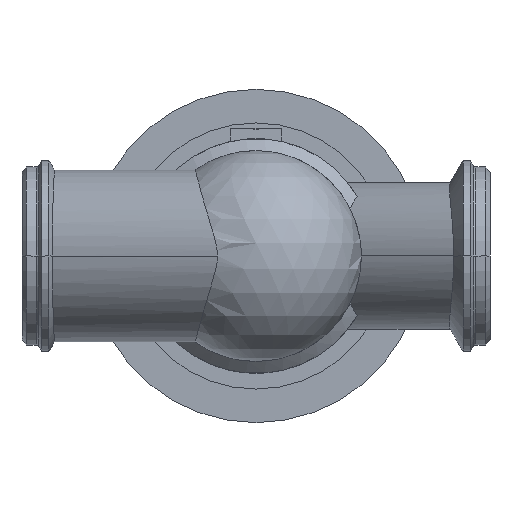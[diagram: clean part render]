
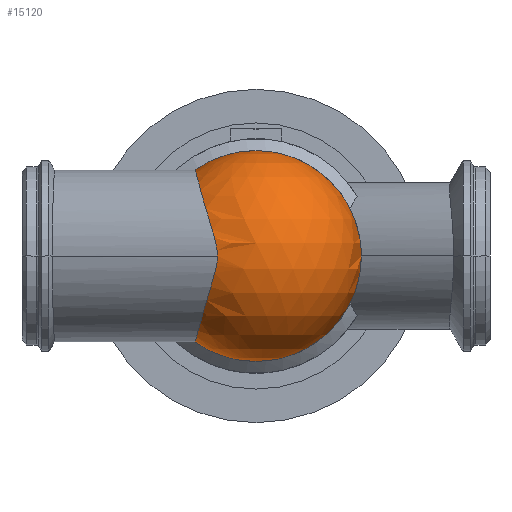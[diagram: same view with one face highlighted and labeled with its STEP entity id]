
A CAD part, front view. The second image highlights one B-rep face of the part: STEP entity #15120.
In plain terms, the highlighted spherical face has radius 164.2 mm.
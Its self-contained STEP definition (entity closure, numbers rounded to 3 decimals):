
#100=CARTESIAN_POINT('',(304.898,-218.775,
0.));
#110=VERTEX_POINT('',#100);
#1780=CARTESIAN_POINT('',(269.918,-65.97,
133.869));
#1790=VERTEX_POINT('',#1780);
#1820=CARTESIAN_POINT('',(269.918,-65.97,
-133.869));
#1830=CARTESIAN_POINT('',(269.932,-66.681,
-133.879));
#1840=CARTESIAN_POINT('',(269.947,-67.389,
-133.884));
#1850=CARTESIAN_POINT('',(270.066,-72.728,
-133.884));
#1860=CARTESIAN_POINT('',(270.205,-77.438,
-133.667));
#1870=CARTESIAN_POINT('',(270.566,-86.924,
-132.768));
#1880=CARTESIAN_POINT('',(270.787,-91.7,
-132.088));
#1890=CARTESIAN_POINT('',(271.325,-101.23,
-130.257));
#1900=CARTESIAN_POINT('',(271.641,-105.984,
-129.107));
#1910=CARTESIAN_POINT('',(272.374,-115.388,
-126.349));
#1920=CARTESIAN_POINT('',(272.792,-120.038,
-124.741));
#1930=CARTESIAN_POINT('',(273.734,-129.153,
-121.096));
#1940=CARTESIAN_POINT('',(274.258,-133.623,
-119.058));
#1950=CARTESIAN_POINT('',(275.415,-142.314,
-114.595));
#1960=CARTESIAN_POINT('',(276.048,-146.535,
-112.17));
#1970=CARTESIAN_POINT('',(277.416,-154.666,
-106.993));
#1980=CARTESIAN_POINT('',(278.152,-158.576,
-104.24));
#1990=CARTESIAN_POINT('',(279.715,-166.032,
-98.481));
#2000=CARTESIAN_POINT('',(280.543,-169.578,
-95.475));
#2010=CARTESIAN_POINT('',(282.233,-176.118,
-89.434));
#2020=CARTESIAN_POINT('',(283.121,-179.24,
-86.303));
#2030=CARTESIAN_POINT('',(285.015,-185.252,
-79.729));
#2040=CARTESIAN_POINT('',(286.022,-188.142,
-76.285));
#2050=CARTESIAN_POINT('',(288.138,-193.621,
-69.141));
#2060=CARTESIAN_POINT('',(289.248,-196.21,
-65.44));
#2070=CARTESIAN_POINT('',(291.547,-201.034,
-57.841));
#2080=CARTESIAN_POINT('',(292.735,-203.268,
-53.944));
#2090=CARTESIAN_POINT('',(294.541,-206.321,
-48.));
#2100=CARTESIAN_POINT('',(295.146,-207.289,
-46.003));
#2110=CARTESIAN_POINT('',(296.356,-209.121,
-41.984));
#2120=CARTESIAN_POINT('',(296.959,-209.985,
-39.961));
#2130=CARTESIAN_POINT('',(298.154,-211.606,
-35.894));
#2140=CARTESIAN_POINT('',(298.745,-212.364,
-33.85));
#2150=CARTESIAN_POINT('',(299.897,-213.766,
-29.741));
#2160=CARTESIAN_POINT('',(300.458,-214.412,
-27.677));
#2170=CARTESIAN_POINT('',(301.528,-215.584,
-23.527));
#2180=CARTESIAN_POINT('',(302.037,-216.111,
-21.442));
#2190=CARTESIAN_POINT('',(302.967,-217.036,
-17.246));
#2200=CARTESIAN_POINT('',(303.389,-217.434,
-15.136));
#2210=CARTESIAN_POINT('',(304.102,-218.086,
-10.881));
#2220=CARTESIAN_POINT('',(304.392,-218.34,
-8.736));
#2230=CARTESIAN_POINT('',(304.69,-218.599,
-5.486));
#2240=CARTESIAN_POINT('',(304.767,-218.664,
-4.398));
#2250=CARTESIAN_POINT('',(304.871,-218.752,
-2.208));
#2260=CARTESIAN_POINT('',(304.898,-218.775,
-1.107));
#2270=CARTESIAN_POINT('',(304.898,-218.775,
0.));
#2280=CARTESIAN_POINT('',(304.898,-218.775,
1.107));
#2290=CARTESIAN_POINT('',(304.871,-218.752,
2.208));
#2300=CARTESIAN_POINT('',(304.767,-218.664,
4.398));
#2310=CARTESIAN_POINT('',(304.69,-218.599,
5.486));
#2320=CARTESIAN_POINT('',(304.392,-218.34,
8.736));
#2330=CARTESIAN_POINT('',(304.102,-218.086,
10.881));
#2340=CARTESIAN_POINT('',(303.389,-217.434,
15.136));
#2350=CARTESIAN_POINT('',(302.967,-217.036,
17.246));
#2360=CARTESIAN_POINT('',(302.037,-216.111,
21.442));
#2370=CARTESIAN_POINT('',(301.528,-215.584,
23.527));
#2380=CARTESIAN_POINT('',(300.458,-214.412,
27.677));
#2390=CARTESIAN_POINT('',(299.897,-213.766,
29.741));
#2400=CARTESIAN_POINT('',(298.745,-212.364,
33.85));
#2410=CARTESIAN_POINT('',(298.154,-211.606,
35.894));
#2420=CARTESIAN_POINT('',(296.959,-209.985,
39.961));
#2430=CARTESIAN_POINT('',(296.356,-209.121,
41.984));
#2440=CARTESIAN_POINT('',(295.146,-207.289,
46.003));
#2450=CARTESIAN_POINT('',(294.541,-206.321,
48.));
#2460=CARTESIAN_POINT('',(292.735,-203.268,
53.944));
#2470=CARTESIAN_POINT('',(291.547,-201.034,
57.841));
#2480=CARTESIAN_POINT('',(289.248,-196.21,
65.44));
#2490=CARTESIAN_POINT('',(288.138,-193.621,
69.141));
#2500=CARTESIAN_POINT('',(286.022,-188.142,
76.285));
#2510=CARTESIAN_POINT('',(285.015,-185.252,
79.729));
#2520=CARTESIAN_POINT('',(283.121,-179.24,
86.303));
#2530=CARTESIAN_POINT('',(282.233,-176.118,
89.434));
#2540=CARTESIAN_POINT('',(280.543,-169.578,
95.475));
#2550=CARTESIAN_POINT('',(279.715,-166.032,
98.481));
#2560=CARTESIAN_POINT('',(278.152,-158.576,
104.24));
#2570=CARTESIAN_POINT('',(277.416,-154.666,
106.993));
#2580=CARTESIAN_POINT('',(276.048,-146.535,
112.17));
#2590=CARTESIAN_POINT('',(275.415,-142.314,
114.595));
#2600=CARTESIAN_POINT('',(274.258,-133.623,
119.058));
#2610=CARTESIAN_POINT('',(273.734,-129.153,
121.096));
#2620=CARTESIAN_POINT('',(272.792,-120.038,
124.741));
#2630=CARTESIAN_POINT('',(272.374,-115.388,
126.349));
#2640=CARTESIAN_POINT('',(271.641,-105.984,
129.107));
#2650=CARTESIAN_POINT('',(271.325,-101.23,
130.257));
#2660=CARTESIAN_POINT('',(270.787,-91.7,
132.088));
#2670=CARTESIAN_POINT('',(270.566,-86.924,
132.768));
#2680=CARTESIAN_POINT('',(270.205,-77.438,
133.667));
#2690=CARTESIAN_POINT('',(270.066,-72.728,
133.884));
#2700=CARTESIAN_POINT('',(269.947,-67.389,
133.884));
#2710=CARTESIAN_POINT('',(269.932,-66.681,
133.879));
#2720=CARTESIAN_POINT('',(269.918,-65.97,
133.869));
#2730=B_SPLINE_CURVE_WITH_KNOTS('',3,(#1820,#1830,#1840,#1850,#1860,
#1870,#1880,#1890,#1900,#1910,#1920,#1930,#1940,#1950,#1960,#1970,#1980,
#1990,#2000,#2010,#2020,#2030,#2040,#2050,#2060,#2070,#2080,#2090,#2100,
#2110,#2120,#2130,#2140,#2150,#2160,#2170,#2180,#2190,#2200,#2210,#2220,
#2230,#2240,#2250,#2260,#2270,#2280,#2290,#2300,#2310,#2320,#2330,#2340,
#2350,#2360,#2370,#2380,#2390,#2400,#2410,#2420,#2430,#2440,#2450,#2460,
#2470,#2480,#2490,#2500,#2510,#2520,#2530,#2540,#2550,#2560,#2570,#2580,
#2590,#2600,#2610,#2620,#2630,#2640,#2650,#2660,#2670,#2680,#2690,#2700,
#2710,#2720),.UNSPECIFIED.,.F.,.F.,(4,2,2,2,2,2,2,2,2,2,2,2,2,2,2,2,2,2,
2,2,2,2,3,2,2,2,2,2,2,2,2,2,2,2,2,2,2,2,2,2,2,2,2,2,4),(626.765
,628.885,642.785,656.684,670.584,
684.483,698.383,712.282,726.182,
740.081,753.368,766.654,779.941,
793.228,799.871,806.514,813.157,
819.801,826.444,833.087,839.731,
843.052,846.374,849.696,853.017,
859.661,866.304,872.947,879.59,
886.234,892.877,899.52,912.807,
926.093,939.38,952.667,966.566,
980.466,994.365,1008.264,1022.164,
1036.063,1049.963,1063.862,1065.983),
.UNSPECIFIED.);
#2740=EDGE_CURVE('',#110,#1790,#2730,.T.);
#7300=CARTESIAN_POINT('',(365.,-65.97,0.));
#7310=DIRECTION('',(0.,1.,0.));
#7320=DIRECTION('',(1.,0.,0.));
#7330=AXIS2_PLACEMENT_3D('',#7300,#7310,#7320);
#7340=CIRCLE('',#7330,164.2);
#7350=CARTESIAN_POINT('',(365.,-65.97,164.2));
#7360=VERTEX_POINT('',#7350);
#7370=EDGE_CURVE('',#1790,#7360,#7340,.T.);
#8160=CARTESIAN_POINT('',(269.918,-65.97,
-133.869));
#8170=VERTEX_POINT('',#8160);
#8200=CARTESIAN_POINT('',(365.,-65.97,-164.2));
#8210=VERTEX_POINT('',#8200);
#8220=EDGE_CURVE('',#8210,#8170,#7340,.T.);
#8240=EDGE_CURVE('',#7360,#8210,#7340,.T.);
#14990=CARTESIAN_POINT('',(365.,-65.97,0.));
#15000=DIRECTION('',(0.,0.,1.));
#15010=DIRECTION('',(1.,0.,0.));
#15020=AXIS2_PLACEMENT_3D('',#14990,#15000,#15010);
#15030=SPHERICAL_SURFACE('',#15020,164.2);
#15040=ORIENTED_EDGE('',*,*,#7370,.F.);
#15050=ORIENTED_EDGE('',*,*,#8240,.F.);
#15060=ORIENTED_EDGE('',*,*,#8220,.F.);
#15070=EDGE_CURVE('',#8170,#110,#2730,.T.);
#15080=ORIENTED_EDGE('',*,*,#15070,.F.);
#15090=ORIENTED_EDGE('',*,*,#2740,.F.);
#15100=EDGE_LOOP('',(#15090,#15080,#15060,#15050,#15040));
#15110=FACE_OUTER_BOUND('',#15100,.T.);
#15120=ADVANCED_FACE('',(#15110),#15030,.T.);
